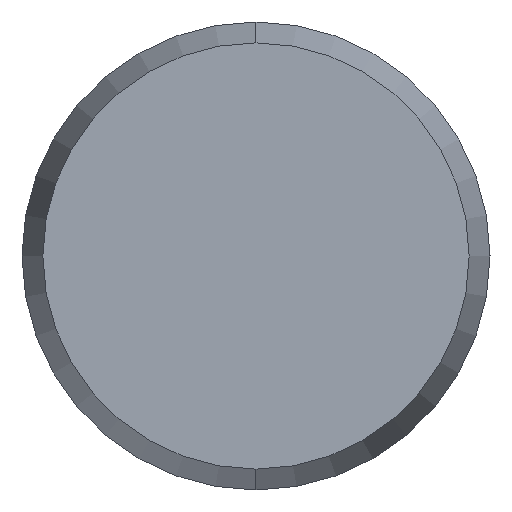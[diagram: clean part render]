
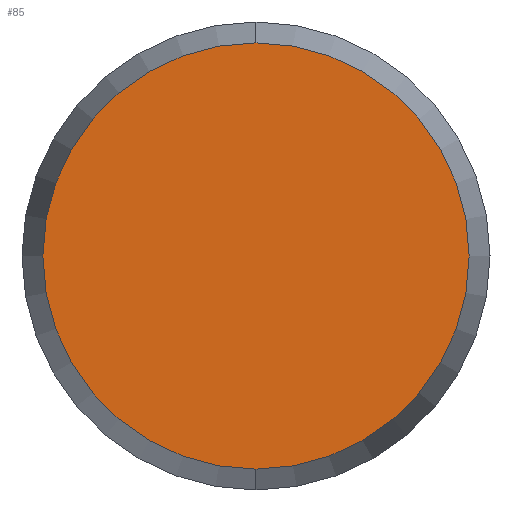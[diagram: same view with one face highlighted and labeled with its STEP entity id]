
A CAD part, left-side view. The second image highlights one B-rep face of the part: STEP entity #85.
In plain terms, the highlighted planar face has unit normal (-1, 0, 0).
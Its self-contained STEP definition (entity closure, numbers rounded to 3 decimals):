
#17 = CARTESIAN_POINT ( 'NONE',  ( -7., 0., 0. ) ) ;
#18 = AXIS2_PLACEMENT_3D ( 'NONE', #17, #28, #27 ) ;
#19 = CIRCLE ( 'NONE', #18, 1.366 ) ;
#27 = DIRECTION ( 'NONE',  ( 0., 0., -1. ) ) ;
#28 = DIRECTION ( 'NONE',  ( 1., 0., 0. ) ) ;
#81 = EDGE_LOOP ( 'NONE', ( #83, #82 ) ) ;
#82 = ORIENTED_EDGE ( 'NONE', *, *, #261, .F. ) ;
#83 = ORIENTED_EDGE ( 'NONE', *, *, #233, .F. ) ;
#85 = ADVANCED_FACE ( 'NONE', ( #226 ), #228, .F. ) ;
#90 = CIRCLE ( 'NONE', #108, 1.366 ) ;
#91 = CARTESIAN_POINT ( 'NONE',  ( -7., 0., -1.366 ) ) ;
#98 = CARTESIAN_POINT ( 'NONE',  ( -7., 0., 0. ) ) ;
#105 = DIRECTION ( 'NONE',  ( 1., 0., 0. ) ) ;
#106 = CARTESIAN_POINT ( 'NONE',  ( -7., 0., 1.366 ) ) ;
#107 = DIRECTION ( 'NONE',  ( 0., 0., -1. ) ) ;
#108 = AXIS2_PLACEMENT_3D ( 'NONE', #98, #105, #107 ) ;
#221 = CARTESIAN_POINT ( 'NONE',  ( -7., 0., 0. ) ) ;
#222 = AXIS2_PLACEMENT_3D ( 'NONE', #221, #227, #225 ) ;
#225 = DIRECTION ( 'NONE',  ( 0., 0., -1. ) ) ;
#226 = FACE_OUTER_BOUND ( 'NONE', #81, .T. ) ;
#227 = DIRECTION ( 'NONE',  ( 1., 0., 0. ) ) ;
#228 = PLANE ( 'NONE',  #222 ) ;
#233 = EDGE_CURVE ( 'NONE', #234, #236, #90, .T. ) ;
#234 = VERTEX_POINT ( 'NONE', #106 ) ;
#236 = VERTEX_POINT ( 'NONE', #91 ) ;
#261 = EDGE_CURVE ( 'NONE', #236, #234, #19, .T. ) ;
